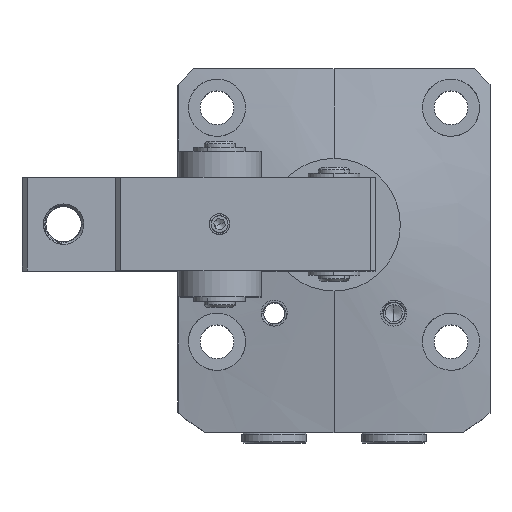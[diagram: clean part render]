
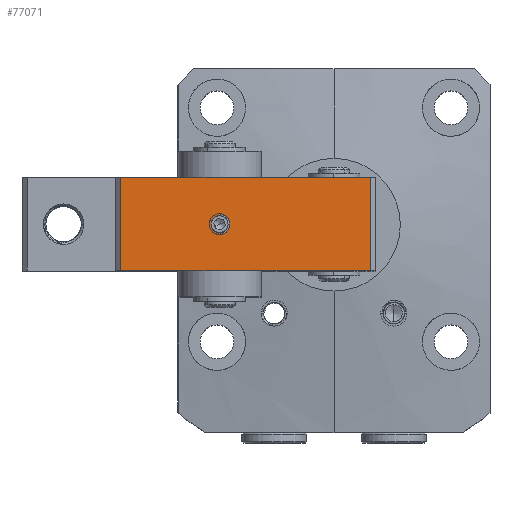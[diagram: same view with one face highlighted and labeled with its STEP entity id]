
A CAD part, top view. The second image highlights one B-rep face of the part: STEP entity #77071.
In plain terms, the highlighted planar face has unit normal (0, 0, 1) as drawn and (-0.135, 0.991, 0) by its records, which use the part's own axes.
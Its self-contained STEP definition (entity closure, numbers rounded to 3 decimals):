
#194 = AXIS2_PLACEMENT_3D ( 'NONE', #14283, #64147, #21474 ) ;
#404 = EDGE_CURVE ( 'NONE', #65756, #39741, #8210, .T. ) ;
#1734 = CARTESIAN_POINT ( 'NONE',  ( -1.079, 7.927, 13.6 ) ) ;
#4329 = EDGE_CURVE ( 'NONE', #39741, #77230, #7952, .T. ) ;
#5140 = VERTEX_POINT ( 'NONE', #33711 ) ;
#6526 = DIRECTION ( 'NONE',  ( 0.991, 0.135, 0. ) ) ;
#7952 = CIRCLE ( 'NONE', #89550, 1.996 ) ;
#8210 = CIRCLE ( 'NONE', #29871, 1.769 ) ;
#8543 = CARTESIAN_POINT ( 'NONE',  ( -1.768, 7.833, 12.14 ) ) ;
#8900 = DIRECTION ( 'NONE',  ( 0.991, 0.135, 0. ) ) ;
#9535 = EDGE_CURVE ( 'NONE', #72943, #5140, #56817, .T. ) ;
#11971 = CARTESIAN_POINT ( 'NONE',  ( 27.655, 11.84, 22.6 ) ) ;
#12287 = EDGE_CURVE ( 'NONE', #74125, #65756, #77064, .T. ) ;
#13434 = ORIENTED_EDGE ( 'NONE', *, *, #21064, .T. ) ;
#14283 = CARTESIAN_POINT ( 'NONE',  ( -1.079, 7.927, 13.6 ) ) ;
#14303 = DIRECTION ( 'NONE',  ( 0.991, 0.135, 0. ) ) ;
#15063 = DIRECTION ( 'NONE',  ( 0., 0., 1. ) ) ;
#15893 = VERTEX_POINT ( 'NONE', #89434 ) ;
#17306 = CARTESIAN_POINT ( 'NONE',  ( -0.779, 7.968, 13.6 ) ) ;
#19491 = ORIENTED_EDGE ( 'NONE', *, *, #404, .T. ) ;
#20124 = DIRECTION ( 'NONE',  ( 0.991, 0.135, 0. ) ) ;
#20213 = DIRECTION ( 'NONE',  ( 0.135, -0.991, 0. ) ) ;
#20328 = CARTESIAN_POINT ( 'NONE',  ( -1.079, 7.927, 13.6 ) ) ;
#20925 = VECTOR ( 'NONE', #43512, 1000. ) ;
#21064 = EDGE_CURVE ( 'NONE', #77230, #15893, #29858, .T. ) ;
#21404 = DIRECTION ( 'NONE',  ( -0.991, -0.135, 0. ) ) ;
#21474 = DIRECTION ( 'NONE',  ( 0.991, 0.135, 0. ) ) ;
#21713 = CARTESIAN_POINT ( 'NONE',  ( -19.906, 5.363, 22.6 ) ) ;
#22859 = ORIENTED_EDGE ( 'NONE', *, *, #45307, .T. ) ;
#23967 = CARTESIAN_POINT ( 'NONE',  ( 0.47, 8.138, 12.359 ) ) ;
#23972 = ORIENTED_EDGE ( 'NONE', *, *, #58322, .T. ) ;
#24573 = ORIENTED_EDGE ( 'NONE', *, *, #86003, .T. ) ;
#24870 = LINE ( 'NONE', #92319, #27108 ) ;
#24950 = VERTEX_POINT ( 'NONE', #61635 ) ;
#26748 = CARTESIAN_POINT ( 'NONE',  ( 0.898, 8.196, 13.6 ) ) ;
#27108 = VECTOR ( 'NONE', #15063, 1000. ) ;
#28271 = CARTESIAN_POINT ( 'NONE',  ( 27.655, 11.84, 4.6 ) ) ;
#29321 = FACE_BOUND ( 'NONE', #54558, .T. ) ;
#29858 = CIRCLE ( 'NONE', #84507, 1.996 ) ;
#29871 = AXIS2_PLACEMENT_3D ( 'NONE', #17306, #71032, #14303 ) ;
#31849 = EDGE_CURVE ( 'NONE', #53428, #72943, #37629, .T. ) ;
#32100 = CARTESIAN_POINT ( 'NONE',  ( 27.655, 11.84, 4.6 ) ) ;
#32174 = DIRECTION ( 'NONE',  ( 0., 0., -1. ) ) ;
#33711 = CARTESIAN_POINT ( 'NONE',  ( 27.655, 11.84, 4.6 ) ) ;
#35192 = ORIENTED_EDGE ( 'NONE', *, *, #31849, .T. ) ;
#35514 = DIRECTION ( 'NONE',  ( 0.135, -0.991, 0. ) ) ;
#35711 = LINE ( 'NONE', #90716, #73584 ) ;
#37629 = LINE ( 'NONE', #21713, #20925 ) ;
#39741 = VERTEX_POINT ( 'NONE', #23967 ) ;
#40097 = VECTOR ( 'NONE', #32174, 1000. ) ;
#40750 = AXIS2_PLACEMENT_3D ( 'NONE', #78149, #35514, #85303 ) ;
#40936 = ORIENTED_EDGE ( 'NONE', *, *, #12287, .T. ) ;
#42267 = VERTEX_POINT ( 'NONE', #83594 ) ;
#43512 = DIRECTION ( 'NONE',  ( 0.991, 0.135, 0. ) ) ;
#43547 = CARTESIAN_POINT ( 'NONE',  ( -2.682, 7.709, 13.6 ) ) ;
#45307 = EDGE_CURVE ( 'NONE', #5140, #24950, #35711, .T. ) ;
#48957 = AXIS2_PLACEMENT_3D ( 'NONE', #28271, #64082, #21404 ) ;
#49260 = DIRECTION ( 'NONE',  ( 0.135, -0.991, 0. ) ) ;
#49498 = AXIS2_PLACEMENT_3D ( 'NONE', #1734, #51618, #8900 ) ;
#51618 = DIRECTION ( 'NONE',  ( 0.135, -0.991, 0. ) ) ;
#53428 = VERTEX_POINT ( 'NONE', #57898 ) ;
#53763 = EDGE_LOOP ( 'NONE', ( #35192, #79208, #22859, #23972 ) ) ;
#54558 = EDGE_LOOP ( 'NONE', ( #92153, #13434, #24573, #73987, #40936, #19491 ) ) ;
#55212 = DIRECTION ( 'NONE',  ( -0.991, -0.135, 0. ) ) ;
#55251 = CIRCLE ( 'NONE', #40750, 1.769 ) ;
#56817 = LINE ( 'NONE', #32100, #40097 ) ;
#57898 = CARTESIAN_POINT ( 'NONE',  ( -19.906, 5.363, 22.6 ) ) ;
#58322 = EDGE_CURVE ( 'NONE', #24950, #53428, #24870, .T. ) ;
#61635 = CARTESIAN_POINT ( 'NONE',  ( -19.906, 5.363, 4.6 ) ) ;
#64082 = DIRECTION ( 'NONE',  ( -0.135, 0.991, 0. ) ) ;
#64147 = DIRECTION ( 'NONE',  ( 0.135, -0.991, 0. ) ) ;
#65756 = VERTEX_POINT ( 'NONE', #8543 ) ;
#71032 = DIRECTION ( 'NONE',  ( 0.135, -0.991, 0. ) ) ;
#72943 = VERTEX_POINT ( 'NONE', #11971 ) ;
#73584 = VECTOR ( 'NONE', #55212, 1000. ) ;
#73987 = ORIENTED_EDGE ( 'NONE', *, *, #74286, .T. ) ;
#74125 = VERTEX_POINT ( 'NONE', #43547 ) ;
#74286 = EDGE_CURVE ( 'NONE', #42267, #74125, #86305, .T. ) ;
#77064 = CIRCLE ( 'NONE', #194, 1.617 ) ;
#77071 = ADVANCED_FACE ( 'NONE', ( #29321, #81630 ), #85218, .T. ) ;
#77230 = VERTEX_POINT ( 'NONE', #26748 ) ;
#78149 = CARTESIAN_POINT ( 'NONE',  ( -0.779, 7.968, 13.6 ) ) ;
#79208 = ORIENTED_EDGE ( 'NONE', *, *, #9535, .T. ) ;
#81630 = FACE_OUTER_BOUND ( 'NONE', #53763, .T. ) ;
#83594 = CARTESIAN_POINT ( 'NONE',  ( -1.768, 7.833, 15.06 ) ) ;
#84507 = AXIS2_PLACEMENT_3D ( 'NONE', #91925, #49260, #6526 ) ;
#85218 = PLANE ( 'NONE',  #48957 ) ;
#85303 = DIRECTION ( 'NONE',  ( -0.991, -0.135, 0. ) ) ;
#86003 = EDGE_CURVE ( 'NONE', #15893, #42267, #55251, .T. ) ;
#86305 = CIRCLE ( 'NONE', #49498, 1.617 ) ;
#89434 = CARTESIAN_POINT ( 'NONE',  ( 0.47, 8.138, 14.841 ) ) ;
#89550 = AXIS2_PLACEMENT_3D ( 'NONE', #20328, #20213, #20124 ) ;
#90716 = CARTESIAN_POINT ( 'NONE',  ( 27.655, 11.84, 4.6 ) ) ;
#91925 = CARTESIAN_POINT ( 'NONE',  ( -1.079, 7.927, 13.6 ) ) ;
#92153 = ORIENTED_EDGE ( 'NONE', *, *, #4329, .T. ) ;
#92319 = CARTESIAN_POINT ( 'NONE',  ( -19.906, 5.363, 4.6 ) ) ;
